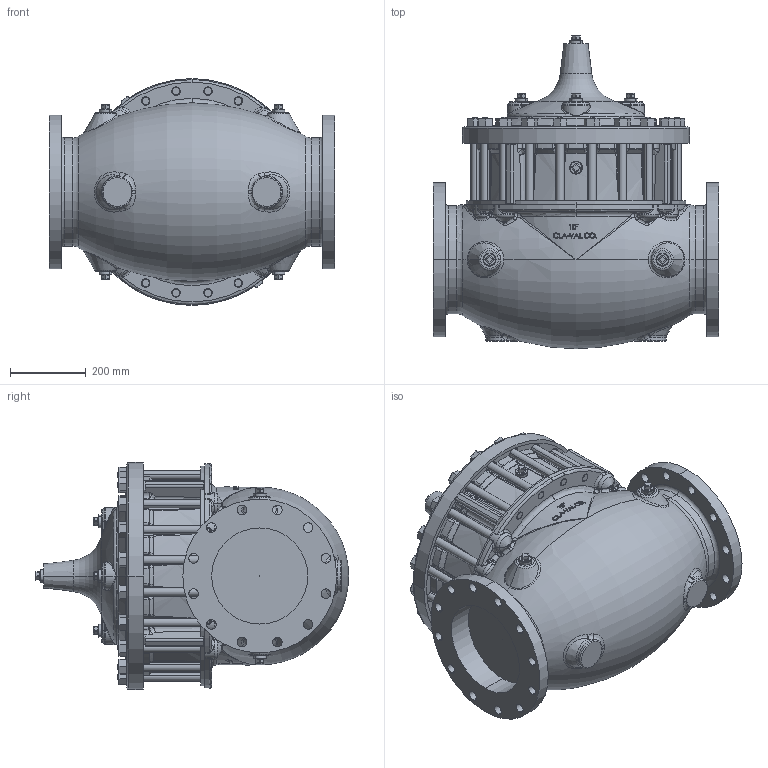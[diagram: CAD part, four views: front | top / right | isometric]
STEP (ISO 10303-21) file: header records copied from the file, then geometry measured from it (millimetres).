
FILE_DESCRIPTION (( 'STEP AP203' ), '1' );
FILE_NAME ('10in 100-02, 150AG.STEP', '2020-09-02T22:26:56', ( '' ), ( '' ), 'SwSTEP 2.0', 'SolidWorks 2019', '' );
FILE_SCHEMA (( 'CONFIG_CONTROL_DESIGN' ));
Length unit declared in the file: inch
Products named in the file (8): 10in Body HyGl150 STD (BLUE)_Default 150 FLAT FACE; STUD .875-9 UNC (42784)_316 SST 9.75  ; 1.0 NPT SQ HD PIPE PLUG (67660)_18-8 SST; 10in Body, PU; STUD .875-9 UNC (42784)_316 SST 3.962  ; Hexnut .875-9 UNC (67814)_NUT, HEX HEAVY  67814-08H; 10in 100-02, 150AG; 10in Cover 100-01_NO SpotFace-2 bosses drld
Assembly tree (54 placements, depth 2):
  10in 100-02, 150AG
    10in Body HyGl150 STD (BLUE)_Default 150 FLAT FACE
    10in Cover 100-01_NO SpotFace-2 bosses drld
    STUD .875-9 UNC (42784)_316 SST 9.75    x19
    Hexnut .875-9 UNC (67814)_NUT, HEX HEAVY  67814-08H  x20
    1.0 NPT SQ HD PIPE PLUG (67660)_18-8 SST  x11
    STUD .875-9 UNC (42784)_316 SST 3.962  
    10in Body, PU
Bounding box: 755.65 x 828.04 x 599.95 mm (x, y, z)
Volume: 135439670.6 mm3; surface area: 4109248.4 mm2
Topology: 54 solids, 54 shells, 2325 faces, 5751 edges, 3459 vertices
Faces by surface type: cylinder 636, bspline 533, plane 434, cone 383, torus 241, sphere 98
Entity records: 88720 total; most frequent: CARTESIAN_POINT 51401, ORIENTED_EDGE 8042, DIRECTION 6570, EDGE_CURVE 4021, AXIS2_PLACEMENT_3D 2850, VERTEX_POINT 2481, EDGE_LOOP 1818, CIRCLE 1723
